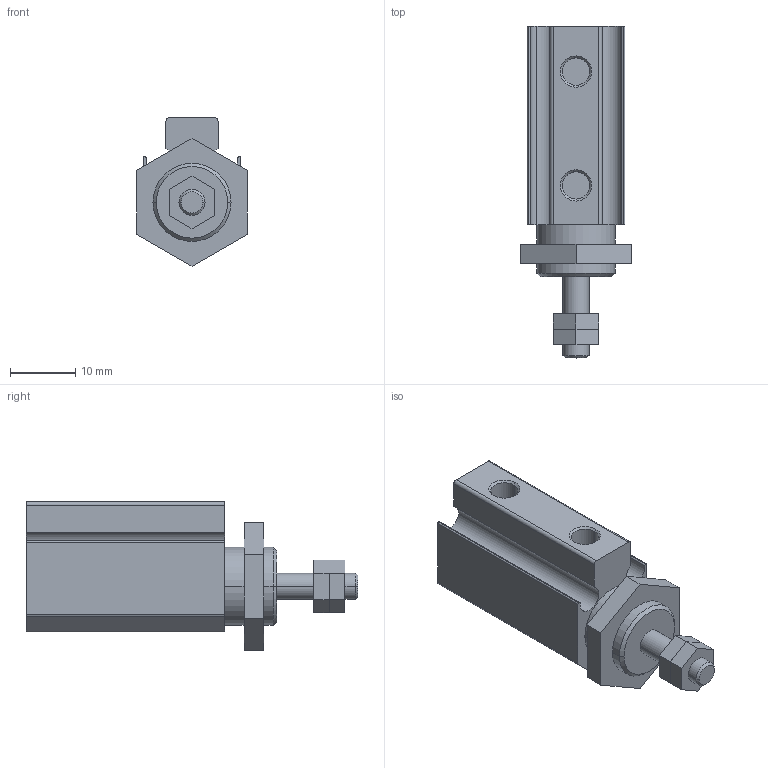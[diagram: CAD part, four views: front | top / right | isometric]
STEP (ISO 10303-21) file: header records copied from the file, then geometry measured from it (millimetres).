
FILE_DESCRIPTION((''),'2;1');
FILE_NAME('B:\CHANTO-3D-已完成\NEW\AAP\AAP-3D\AAP10X5.stp','2010-08-19T19:43:48',('Administrator'),(''),'Autodesk Inventor 8','Autodesk Inventor 8','');
FILE_SCHEMA(('AUTOMOTIVE_DESIGN { 1 0 10303 214 1 1 1 1 }'));
Length unit declared in the file: millimetre
Products named in the file (1): AAP10X5
Bounding box: 17 x 51 x 22.82 mm (x, y, z)
Volume: 8554.5 mm3; surface area: 3876.3 mm2
Topology: 1 solids, 1 shells, 76 faces, 184 edges, 120 vertices
Faces by surface type: plane 40, cylinder 28, cone 8
Entity records: 2251 total; most frequent: DIRECTION 402, CARTESIAN_POINT 381, ORIENTED_EDGE 368, EDGE_CURVE 184, AXIS2_PLACEMENT_3D 141, VERTEX_POINT 120, VECTOR 120, LINE 120
